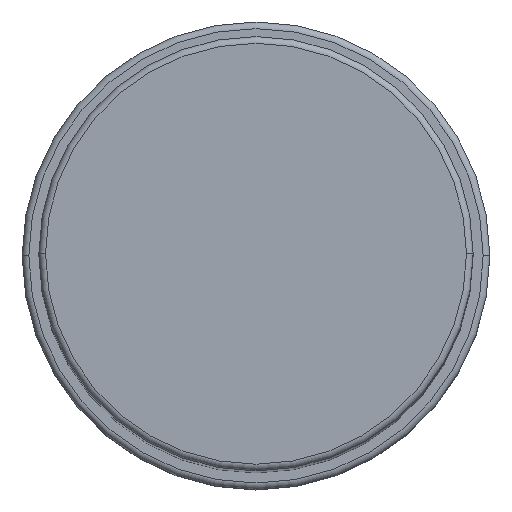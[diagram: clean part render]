
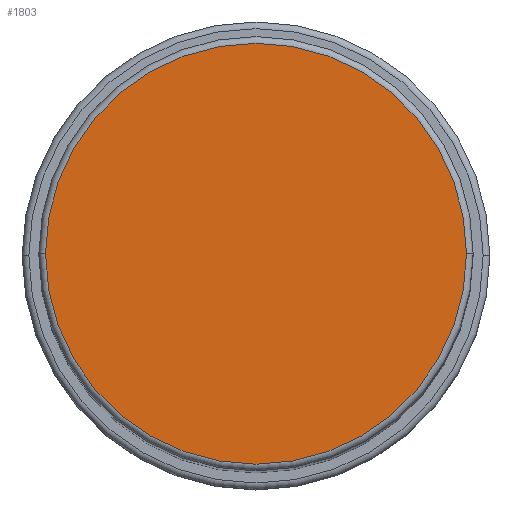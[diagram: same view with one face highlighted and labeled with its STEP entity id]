
A CAD part, top view. The second image highlights one B-rep face of the part: STEP entity #1803.
In plain terms, the highlighted planar face has unit normal (0, 0, 1).
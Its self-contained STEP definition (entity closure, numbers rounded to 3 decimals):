
#33 = CIRCLE ( 'NONE', #1674, 31.5 ) ;
#131 = FACE_OUTER_BOUND ( 'NONE', #1491, .T. ) ;
#188 = EDGE_CURVE ( 'NONE', #847, #1556, #33, .T. ) ;
#197 = AXIS2_PLACEMENT_3D ( 'NONE', #1258, #1057, #335 ) ;
#297 = CIRCLE ( 'NONE', #197, 31.5 ) ;
#335 = DIRECTION ( 'NONE',  ( 1., 0., 0. ) ) ;
#433 = PLANE ( 'NONE',  #1630 ) ;
#718 = DIRECTION ( 'NONE',  ( 0., 0., 1. ) ) ;
#750 = CARTESIAN_POINT ( 'NONE',  ( 31.5, 0., 193. ) ) ;
#782 = ORIENTED_EDGE ( 'NONE', *, *, #936, .T. ) ;
#847 = VERTEX_POINT ( 'NONE', #1705 ) ;
#910 = CARTESIAN_POINT ( 'NONE',  ( 0., 0., 193. ) ) ;
#936 = EDGE_CURVE ( 'NONE', #1556, #847, #297, .T. ) ;
#1057 = DIRECTION ( 'NONE',  ( 0., 0., 1. ) ) ;
#1140 = DIRECTION ( 'NONE',  ( 0., 0., 1. ) ) ;
#1258 = CARTESIAN_POINT ( 'NONE',  ( 0., 0., 193. ) ) ;
#1259 = ORIENTED_EDGE ( 'NONE', *, *, #188, .T. ) ;
#1288 = CARTESIAN_POINT ( 'NONE',  ( 0., 0., 193. ) ) ;
#1491 = EDGE_LOOP ( 'NONE', ( #782, #1259 ) ) ;
#1556 = VERTEX_POINT ( 'NONE', #750 ) ;
#1630 = AXIS2_PLACEMENT_3D ( 'NONE', #910, #718, #1804 ) ;
#1674 = AXIS2_PLACEMENT_3D ( 'NONE', #1288, #1140, #1928 ) ;
#1705 = CARTESIAN_POINT ( 'NONE',  ( -31.5, 0., 193. ) ) ;
#1803 = ADVANCED_FACE ( 'NONE', ( #131 ), #433, .T. ) ;
#1804 = DIRECTION ( 'NONE',  ( 1., 0., 0. ) ) ;
#1928 = DIRECTION ( 'NONE',  ( 1., 0., 0. ) ) ;
